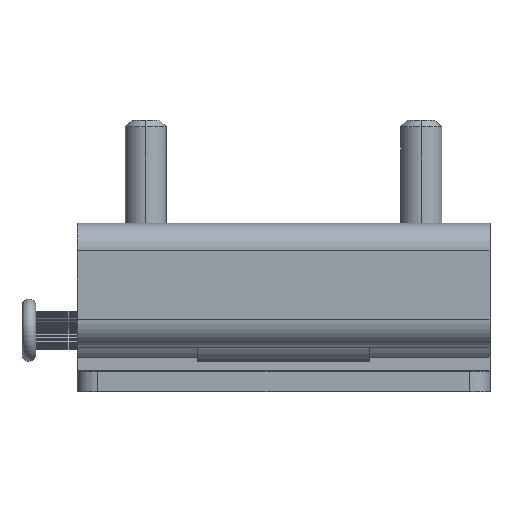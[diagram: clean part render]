
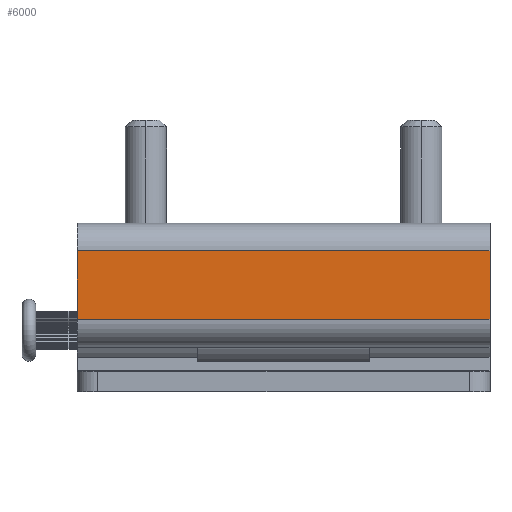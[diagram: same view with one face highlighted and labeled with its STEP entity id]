
A CAD part, top view. The second image highlights one B-rep face of the part: STEP entity #6000.
In plain terms, the highlighted planar face has unit normal (0, 0, 1).
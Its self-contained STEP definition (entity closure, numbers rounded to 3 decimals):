
#10 = VERTEX_POINT ( 'NONE', #3167 ) ;
#241 = CARTESIAN_POINT ( 'NONE',  ( 30., 11.5, 29.5 ) ) ;
#375 = FACE_OUTER_BOUND ( 'NONE', #7435, .T. ) ;
#629 = DIRECTION ( 'NONE',  ( 0., 1., 0. ) ) ;
#1189 = CARTESIAN_POINT ( 'NONE',  ( -30., 1.5, 29.5 ) ) ;
#1209 = VECTOR ( 'NONE', #629, 1000. ) ;
#1319 = LINE ( 'NONE', #5382, #4973 ) ;
#1503 = DIRECTION ( 'NONE',  ( 0., 1., 0. ) ) ;
#1526 = VERTEX_POINT ( 'NONE', #1189 ) ;
#1749 = PLANE ( 'NONE',  #3519 ) ;
#1982 = EDGE_CURVE ( 'NONE', #7931, #1526, #5789, .T. ) ;
#2108 = EDGE_CURVE ( 'NONE', #7931, #10, #1319, .T. ) ;
#2206 = DIRECTION ( 'NONE',  ( -1., 0., 0. ) ) ;
#2364 = VECTOR ( 'NONE', #2842, 1000. ) ;
#2842 = DIRECTION ( 'NONE',  ( -1., 0., 0. ) ) ;
#2914 = CARTESIAN_POINT ( 'NONE',  ( -30., 11.5, 29.5 ) ) ;
#3065 = DIRECTION ( 'NONE',  ( 1., 0., 0. ) ) ;
#3167 = CARTESIAN_POINT ( 'NONE',  ( 30., 11.5, 29.5 ) ) ;
#3490 = EDGE_CURVE ( 'NONE', #1526, #7642, #6992, .T. ) ;
#3519 = AXIS2_PLACEMENT_3D ( 'NONE', #6271, #6924, #3065 ) ;
#3688 = LINE ( 'NONE', #241, #4986 ) ;
#3987 = CARTESIAN_POINT ( 'NONE',  ( 30., 1.5, 29.5 ) ) ;
#4846 = ORIENTED_EDGE ( 'NONE', *, *, #3490, .F. ) ;
#4973 = VECTOR ( 'NONE', #1503, 1000. ) ;
#4986 = VECTOR ( 'NONE', #2206, 1000. ) ;
#5382 = CARTESIAN_POINT ( 'NONE',  ( 30., 1.5, 29.5 ) ) ;
#5789 = LINE ( 'NONE', #7571, #2364 ) ;
#6000 = ADVANCED_FACE ( 'NONE', ( #375 ), #1749, .T. ) ;
#6202 = ORIENTED_EDGE ( 'NONE', *, *, #1982, .F. ) ;
#6271 = CARTESIAN_POINT ( 'NONE',  ( 30., 1.5, 29.5 ) ) ;
#6467 = ORIENTED_EDGE ( 'NONE', *, *, #2108, .T. ) ;
#6924 = DIRECTION ( 'NONE',  ( 0., 0., 1. ) ) ;
#6992 = LINE ( 'NONE', #8375, #1209 ) ;
#7435 = EDGE_LOOP ( 'NONE', ( #4846, #6202, #6467, #7979 ) ) ;
#7571 = CARTESIAN_POINT ( 'NONE',  ( 30., 1.5, 29.5 ) ) ;
#7583 = EDGE_CURVE ( 'NONE', #10, #7642, #3688, .T. ) ;
#7642 = VERTEX_POINT ( 'NONE', #2914 ) ;
#7931 = VERTEX_POINT ( 'NONE', #3987 ) ;
#7979 = ORIENTED_EDGE ( 'NONE', *, *, #7583, .T. ) ;
#8375 = CARTESIAN_POINT ( 'NONE',  ( -30., 1.5, 29.5 ) ) ;
